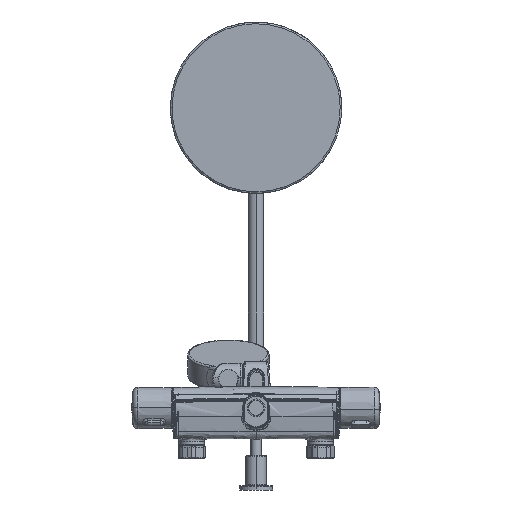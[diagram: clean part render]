
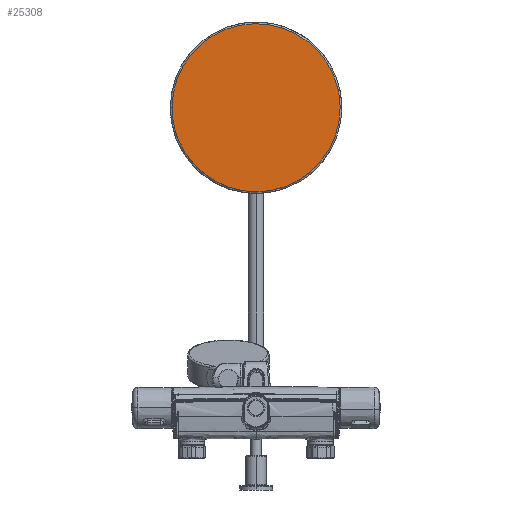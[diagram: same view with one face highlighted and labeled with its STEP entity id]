
A CAD part, front view. The second image highlights one B-rep face of the part: STEP entity #25308.
In plain terms, the highlighted planar face has unit normal (0, -1, 0).
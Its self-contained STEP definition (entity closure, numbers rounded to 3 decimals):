
#2367 = CARTESIAN_POINT ( 'NONE',  ( -6.414, 984.9, 252. ) ) ;
#3006 = CARTESIAN_POINT ( 'NONE',  ( 85.048, 984.9, 300.887 ) ) ;
#3212 = CARTESIAN_POINT ( 'NONE',  ( -73.832, 984.9, 285.239 ) ) ;
#4050 = CARTESIAN_POINT ( 'NONE',  ( 25.41, 984.9, 444.866 ) ) ;
#4258 = CARTESIAN_POINT ( 'NONE',  ( -88.086, 984.9, 393.429 ) ) ;
#4470 = CARTESIAN_POINT ( 'NONE',  ( 98., 984.9, 350. ) ) ;
#4676 = CARTESIAN_POINT ( 'NONE',  ( 64.761, 984.9, 423.832 ) ) ;
#7140 = CARTESIAN_POINT ( 'NONE',  ( 6.414, 984.9, 252. ) ) ;
#7358 = CARTESIAN_POINT ( 'NONE',  ( 77.921, 984.9, 290.221 ) ) ;
#7797 = CARTESIAN_POINT ( 'NONE',  ( 98., 984.9, 350. ) ) ;
#8005 = CARTESIAN_POINT ( 'NONE',  ( -97.368, 984.9, 337.172 ) ) ;
#8851 = CARTESIAN_POINT ( 'NONE',  ( 73.832, 984.9, 414.761 ) ) ;
#9066 = CARTESIAN_POINT ( 'NONE',  ( 6.414, 984.9, 448. ) ) ;
#9470 = CARTESIAN_POINT ( 'NONE',  ( 77.921, 984.9, 409.779 ) ) ;
#11921 = CARTESIAN_POINT ( 'NONE',  ( -88.086, 984.9, 306.571 ) ) ;
#11941 = EDGE_CURVE ( 'NONE', #48036, #23122, #36529, .T. ) ;
#12571 = CARTESIAN_POINT ( 'NONE',  ( 59.779, 984.9, 272.079 ) ) ;
#13829 = CARTESIAN_POINT ( 'NONE',  ( 94.866, 984.9, 375.41 ) ) ;
#14547 = DIRECTION ( 'NONE',  ( 1., 0., 0. ) ) ;
#14619 = CARTESIAN_POINT ( 'NONE',  ( -98., 984.9, 350. ) ) ;
#16536 = CARTESIAN_POINT ( 'NONE',  ( 94.866, 984.9, 324.59 ) ) ;
#16749 = CARTESIAN_POINT ( 'NONE',  ( 64.761, 984.9, 276.168 ) ) ;
#16958 = CARTESIAN_POINT ( 'NONE',  ( 43.429, 984.9, 261.914 ) ) ;
#18212 = CARTESIAN_POINT ( 'NONE',  ( -97.368, 984.9, 362.828 ) ) ;
#18417 = CARTESIAN_POINT ( 'NONE',  ( -59.779, 984.9, 427.921 ) ) ;
#18626 = CARTESIAN_POINT ( 'NONE',  ( -12.828, 984.9, 447.368 ) ) ;
#19791 = EDGE_CURVE ( 'NONE', #23122, #48036, #53558, .T. ) ;
#21284 = CARTESIAN_POINT ( 'NONE',  ( -98., 984.9, 350. ) ) ;
#21499 = CARTESIAN_POINT ( 'NONE',  ( 12.828, 984.9, 252.632 ) ) ;
#21717 = CARTESIAN_POINT ( 'NONE',  ( -25.41, 984.9, 255.134 ) ) ;
#22132 = CARTESIAN_POINT ( 'NONE',  ( -59.779, 984.9, 272.079 ) ) ;
#22982 = CARTESIAN_POINT ( 'NONE',  ( -49.113, 984.9, 435.048 ) ) ;
#23122 = VERTEX_POINT ( 'NONE', #14619 ) ;
#23200 = CARTESIAN_POINT ( 'NONE',  ( 59.779, 984.9, 427.921 ) ) ;
#23621 = CARTESIAN_POINT ( 'NONE',  ( -25.41, 984.9, 444.866 ) ) ;
#24492 = AXIS2_PLACEMENT_3D ( 'NONE', #33075, #33271, #14547 ) ;
#25308 = ADVANCED_FACE ( 'NONE', ( #50203 ), #47988, .F. ) ;
#26094 = CARTESIAN_POINT ( 'NONE',  ( -77.921, 984.9, 290.221 ) ) ;
#26733 = CARTESIAN_POINT ( 'NONE',  ( -49.113, 984.9, 264.952 ) ) ;
#30883 = CARTESIAN_POINT ( 'NONE',  ( 31.577, 984.9, 257.005 ) ) ;
#31300 = CARTESIAN_POINT ( 'NONE',  ( -92.995, 984.9, 318.423 ) ) ;
#32354 = CARTESIAN_POINT ( 'NONE',  ( 92.995, 984.9, 381.577 ) ) ;
#32983 = CARTESIAN_POINT ( 'NONE',  ( 88.086, 984.9, 393.429 ) ) ;
#33075 = CARTESIAN_POINT ( 'NONE',  ( 0., 984.9, 350. ) ) ;
#33185 = CARTESIAN_POINT ( 'NONE',  ( -85.048, 984.9, 399.113 ) ) ;
#33271 = DIRECTION ( 'NONE',  ( 0., 1., 0. ) ) ;
#35650 = CARTESIAN_POINT ( 'NONE',  ( 73.832, 984.9, 285.239 ) ) ;
#36498 = CARTESIAN_POINT ( 'NONE',  ( -85.048, 984.9, 300.887 ) ) ;
#36529 = B_SPLINE_CURVE_WITH_KNOTS ( 'NONE', 3,
 ( #7797, #45207, #41066, #16536, #54945, #59728, #3006, #7358, #35650, #16749, #12571, #60156, #16958, #30883, #45834, #21499, #7140, #2367, #50173, #21717, #49749, #55155, #26733, #22132, #55363, #3212, #26094, #36498, #11921, #31300, #49951, #8005, #41273, #21284 ),
 .UNSPECIFIED., .F., .F.,
 ( 4, 2, 2, 2, 2, 2, 2, 2, 2, 2, 2, 2, 2, 2, 2, 2, 4 ),
 ( 0., 0.031, 0.063, 0.094, 0.125, 0.156, 0.188, 0.219, 0.25, 0.281, 0.313, 0.344, 0.375, 0.406, 0.438, 0.469, 0.5 ),
 .UNSPECIFIED. ) ;
#37350 = CARTESIAN_POINT ( 'NONE',  ( -31.577, 984.9, 442.995 ) ) ;
#37558 = CARTESIAN_POINT ( 'NONE',  ( -64.761, 984.9, 423.832 ) ) ;
#37962 = CARTESIAN_POINT ( 'NONE',  ( 49.113, 984.9, 435.048 ) ) ;
#41066 = CARTESIAN_POINT ( 'NONE',  ( 97.368, 984.9, 337.172 ) ) ;
#41273 = CARTESIAN_POINT ( 'NONE',  ( -98., 984.9, 343.586 ) ) ;
#42326 = CARTESIAN_POINT ( 'NONE',  ( 31.577, 984.9, 442.995 ) ) ;
#42741 = CARTESIAN_POINT ( 'NONE',  ( 97.368, 984.9, 362.828 ) ) ;
#45207 = CARTESIAN_POINT ( 'NONE',  ( 98., 984.9, 343.586 ) ) ;
#45834 = CARTESIAN_POINT ( 'NONE',  ( 25.41, 984.9, 255.134 ) ) ;
#47278 = CARTESIAN_POINT ( 'NONE',  ( 12.828, 984.9, 447.368 ) ) ;
#47485 = CARTESIAN_POINT ( 'NONE',  ( -94.866, 984.9, 375.41 ) ) ;
#47988 = PLANE ( 'NONE',  #24492 ) ;
#48036 = VERTEX_POINT ( 'NONE', #61564 ) ;
#49749 = CARTESIAN_POINT ( 'NONE',  ( -31.577, 984.9, 257.005 ) ) ;
#49951 = CARTESIAN_POINT ( 'NONE',  ( -94.866, 984.9, 324.59 ) ) ;
#50173 = CARTESIAN_POINT ( 'NONE',  ( -12.828, 984.9, 252.632 ) ) ;
#50203 = FACE_OUTER_BOUND ( 'NONE', #51608, .T. ) ;
#51608 = EDGE_LOOP ( 'NONE', ( #52033, #55919 ) ) ;
#51651 = CARTESIAN_POINT ( 'NONE',  ( -73.832, 984.9, 414.761 ) ) ;
#51860 = CARTESIAN_POINT ( 'NONE',  ( -77.921, 984.9, 409.779 ) ) ;
#52033 = ORIENTED_EDGE ( 'NONE', *, *, #11941, .F. ) ;
#52064 = CARTESIAN_POINT ( 'NONE',  ( -98., 984.9, 350. ) ) ;
#52274 = CARTESIAN_POINT ( 'NONE',  ( -98., 984.9, 356.414 ) ) ;
#53558 = B_SPLINE_CURVE_WITH_KNOTS ( 'NONE', 3,
 ( #52064, #52274, #18212, #47485, #61624, #4258, #33185, #51860, #51651, #37558, #18417, #22982, #60800, #37350, #23621, #18626, #56623, #9066, #47278, #4050, #42326, #61420, #37962, #23200, #4676, #8851, #9470, #61214, #32983, #32354, #13829, #42741, #56405, #4470 ),
 .UNSPECIFIED., .F., .F.,
 ( 4, 2, 2, 2, 2, 2, 2, 2, 2, 2, 2, 2, 2, 2, 2, 2, 4 ),
 ( 0.5, 0.531, 0.563, 0.594, 0.625, 0.656, 0.688, 0.719, 0.75, 0.781, 0.813, 0.844, 0.875, 0.906, 0.938, 0.969, 1. ),
 .UNSPECIFIED. ) ;
#54945 = CARTESIAN_POINT ( 'NONE',  ( 92.995, 984.9, 318.423 ) ) ;
#55155 = CARTESIAN_POINT ( 'NONE',  ( -43.429, 984.9, 261.914 ) ) ;
#55363 = CARTESIAN_POINT ( 'NONE',  ( -64.761, 984.9, 276.168 ) ) ;
#55919 = ORIENTED_EDGE ( 'NONE', *, *, #19791, .F. ) ;
#56405 = CARTESIAN_POINT ( 'NONE',  ( 98., 984.9, 356.414 ) ) ;
#56623 = CARTESIAN_POINT ( 'NONE',  ( -6.414, 984.9, 448. ) ) ;
#59728 = CARTESIAN_POINT ( 'NONE',  ( 88.086, 984.9, 306.571 ) ) ;
#60156 = CARTESIAN_POINT ( 'NONE',  ( 49.113, 984.9, 264.952 ) ) ;
#60800 = CARTESIAN_POINT ( 'NONE',  ( -43.429, 984.9, 438.086 ) ) ;
#61214 = CARTESIAN_POINT ( 'NONE',  ( 85.048, 984.9, 399.113 ) ) ;
#61420 = CARTESIAN_POINT ( 'NONE',  ( 43.429, 984.9, 438.086 ) ) ;
#61564 = CARTESIAN_POINT ( 'NONE',  ( 98., 984.9, 350. ) ) ;
#61624 = CARTESIAN_POINT ( 'NONE',  ( -92.995, 984.9, 381.577 ) ) ;
